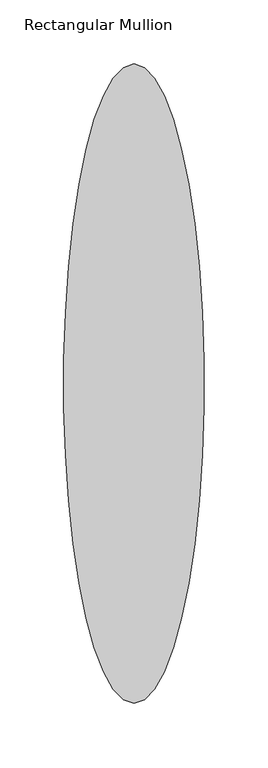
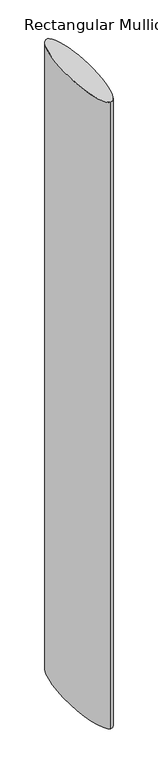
"""IFC4 building model written with IfcOpenShell, lengths in millimetres: member geometry, Rectangular Mullion : RSen_21_CWM_blade - wing 500 - 0° perforated_gen_duco projects."""

from ifc_helpers import new_model, si_unit, point, frame, origin, place, context, project, spatial, ellipse_curve, trimmed, source, transform, mapped, element, save
from ifc_brep_helpers import plane_surface, extruded_surface, advanced_brep


def rectangular_mullion_936fac8d(model_context):
    return source(origin(), model_context, "Body", "AdvancedBrep", [
        advanced_brep(
        [(0.0, 5.0, 0.0), (0.0, 505.0, 0.0), (0.0, 5.0, -3000.0), (0.0, 505.0, -3000.0)],
        [
            (0, 1, ellipse_curve(frame((0.0, 255.0, 0.0), z_axis=(0.0, 0.0, 1.0), x_axis=(0.0, 1.0, 0.0)), 250.0, 55.0)),
            (1, 0, ellipse_curve(frame((0.0, 255.0, 0.0), z_axis=(0.0, 0.0, 1.0), x_axis=(0.0, 1.0, 0.0)), 250.0, 55.0)),
            (2, 3, ellipse_curve(frame((0.0, 255.0, -3000.0), z_axis=(0.0, 0.0, -1.0), x_axis=(0.0, 1.0, 0.0)), 250.0, 55.0)),
            (3, 2, ellipse_curve(frame((0.0, 255.0, -3000.0), z_axis=(0.0, 0.0, -1.0), x_axis=(0.0, 1.0, 0.0)), 250.0, 55.0)),
            (0, 2),
            (3, 1),
        ],
        [
            plane_surface(frame((0.0, -505.0, 0.0), z_axis=(0.0, 0.0, 1.0), x_axis=(-1.0, 0.0, 0.0))),
            plane_surface(frame((0.0, -505.0, -3000.0), z_axis=(0.0, 0.0, -1.0), x_axis=(-1.0, 0.0, 0.0))),
            extruded_surface(trimmed(ellipse_curve(frame((0.0, 255.0, -3000.0), z_axis=(0.0, 0.0, 1.0), x_axis=(0.0, 1.0, 0.0)), 250.0, 55.0), [point((0.0, 5.0, -3000.0))], [point((0.0, 505.0, -3000.0))], True, "CARTESIAN"), (0.0, 0.0, 3000.0), 3000.0),
            extruded_surface(trimmed(ellipse_curve(frame((0.0, 255.0, -3000.0), z_axis=(0.0, 0.0, 1.0), x_axis=(0.0, 1.0, 0.0)), 250.0, 55.0), [point((0.0, 505.0, -3000.0))], [point((0.0, 5.0, -3000.0))], True, "CARTESIAN"), (0.0, 0.0, 3000.0), 3000.0),
        ],
        [
            (0, [[1, 2]]),
            (1, [[3, 4]]),
            (2, [[-1, 5, -4, 6]]),
            (3, [[-2, -6, -3, -5]]),
        ],
    ),
    ])


if __name__ == "__main__":
    model = new_model("IFC4")
    model_context = context("Model", 3, world=origin())
    ifc_project = project(units=[si_unit("LENGTHUNIT", "METRE", prefix="MILLI")], contexts=[model_context])
    site = spatial("IfcSite", under=ifc_project)
    building = spatial("IfcBuilding", under=site)
    placement = place(None, origin())
    rectangular_mullion_shape = rectangular_mullion_936fac8d(model_context)
    element("IfcMember", 1, ObjectType="Rectangular Mullion : RSen_21_CWM_blade - wing 500 - 0° perforated_gen_duco projects", at=placement, inside=building, context=model_context, shape_type="MappedRepresentation", body=[
        mapped(rectangular_mullion_shape, transform((0.0, 0.0, 0.0), x_axis=(1.0, 0.0, 0.0), y_axis=(0.0, 1.0, 0.0), z_axis=(0.0, 0.0, 1.0))),
    ])
    save(model, "model.ifc")
